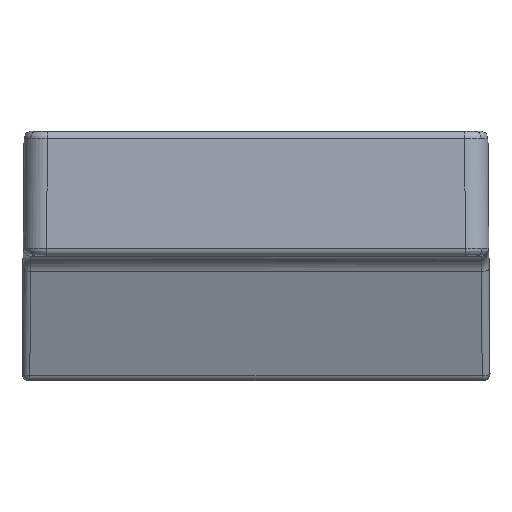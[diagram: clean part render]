
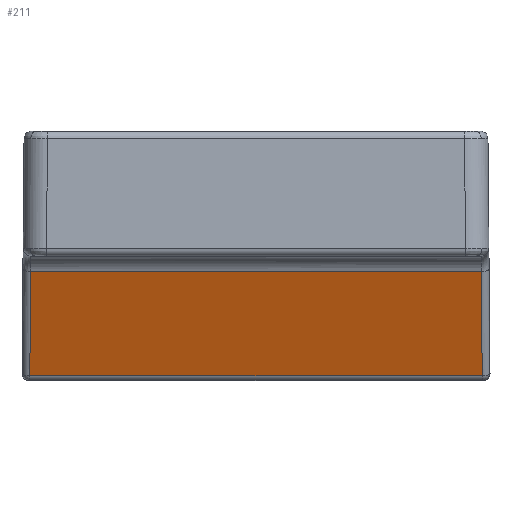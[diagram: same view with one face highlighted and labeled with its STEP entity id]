
A CAD part, front view. The second image highlights one B-rep face of the part: STEP entity #211.
In plain terms, the highlighted planar face has unit normal (0, -0.94, -0.342).
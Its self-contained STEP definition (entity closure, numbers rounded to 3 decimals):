
#13 = VECTOR ( 'NONE', #237, 1000. ) ;
#134 = LINE ( 'NONE', #1252, #1762 ) ;
#211 = ADVANCED_FACE ( 'NONE', ( #4317 ), #3106, .F. ) ;
#237 = DIRECTION ( 'NONE',  ( -1., 0., 0. ) ) ;
#724 = CARTESIAN_POINT ( 'NONE',  ( -15., -11.93, 8. ) ) ;
#1118 = CARTESIAN_POINT ( 'NONE',  ( 14.496, -9.138, 0.329 ) ) ;
#1193 = AXIS2_PLACEMENT_3D ( 'NONE', #724, #4293, #3133 ) ;
#1252 = CARTESIAN_POINT ( 'NONE',  ( 14.427, -12.013, 8.227 ) ) ;
#1303 = LINE ( 'NONE', #4091, #4185 ) ;
#1762 = VECTOR ( 'NONE', #3332, 1000. ) ;
#1846 = CARTESIAN_POINT ( 'NONE',  ( -14.93, -11.571, 7.013 ) ) ;
#1855 = LINE ( 'NONE', #1881, #2679 ) ;
#1881 = CARTESIAN_POINT ( 'NONE',  ( -14.429, -11.929, 7.996 ) ) ;
#2037 = EDGE_LOOP ( 'NONE', ( #4856, #4013, #3666, #3592 ) ) ;
#2162 = VERTEX_POINT ( 'NONE', #4780 ) ;
#2341 = VERTEX_POINT ( 'NONE', #2924 ) ;
#2342 = LINE ( 'NONE', #1846, #13 ) ;
#2492 = EDGE_CURVE ( 'NONE', #2341, #2162, #2342, .T. ) ;
#2655 = CARTESIAN_POINT ( 'NONE',  ( -14.496, -9.138, 0.329 ) ) ;
#2664 = DIRECTION ( 'NONE',  ( -0.008, 0.342, -0.94 ) ) ;
#2679 = VECTOR ( 'NONE', #2664, 1000. ) ;
#2889 = DIRECTION ( 'NONE',  ( 1., 0., 0. ) ) ;
#2924 = CARTESIAN_POINT ( 'NONE',  ( 14.437, -11.571, 7.013 ) ) ;
#3037 = VERTEX_POINT ( 'NONE', #2655 ) ;
#3106 = PLANE ( 'NONE',  #1193 ) ;
#3133 = DIRECTION ( 'NONE',  ( 0., -0.342, 0.94 ) ) ;
#3259 = EDGE_CURVE ( 'NONE', #3037, #4225, #1303, .T. ) ;
#3332 = DIRECTION ( 'NONE',  ( -0.008, -0.342, 0.94 ) ) ;
#3477 = EDGE_CURVE ( 'NONE', #2162, #3037, #1855, .T. ) ;
#3592 = ORIENTED_EDGE ( 'NONE', *, *, #4345, .T. ) ;
#3666 = ORIENTED_EDGE ( 'NONE', *, *, #3259, .T. ) ;
#4013 = ORIENTED_EDGE ( 'NONE', *, *, #3477, .T. ) ;
#4091 = CARTESIAN_POINT ( 'NONE',  ( 14.496, -9.138, 0.329 ) ) ;
#4185 = VECTOR ( 'NONE', #2889, 1000. ) ;
#4225 = VERTEX_POINT ( 'NONE', #1118 ) ;
#4293 = DIRECTION ( 'NONE',  ( 0., 0.94, 0.342 ) ) ;
#4317 = FACE_OUTER_BOUND ( 'NONE', #2037, .T. ) ;
#4345 = EDGE_CURVE ( 'NONE', #4225, #2341, #134, .T. ) ;
#4780 = CARTESIAN_POINT ( 'NONE',  ( -14.437, -11.571, 7.013 ) ) ;
#4856 = ORIENTED_EDGE ( 'NONE', *, *, #2492, .T. ) ;
